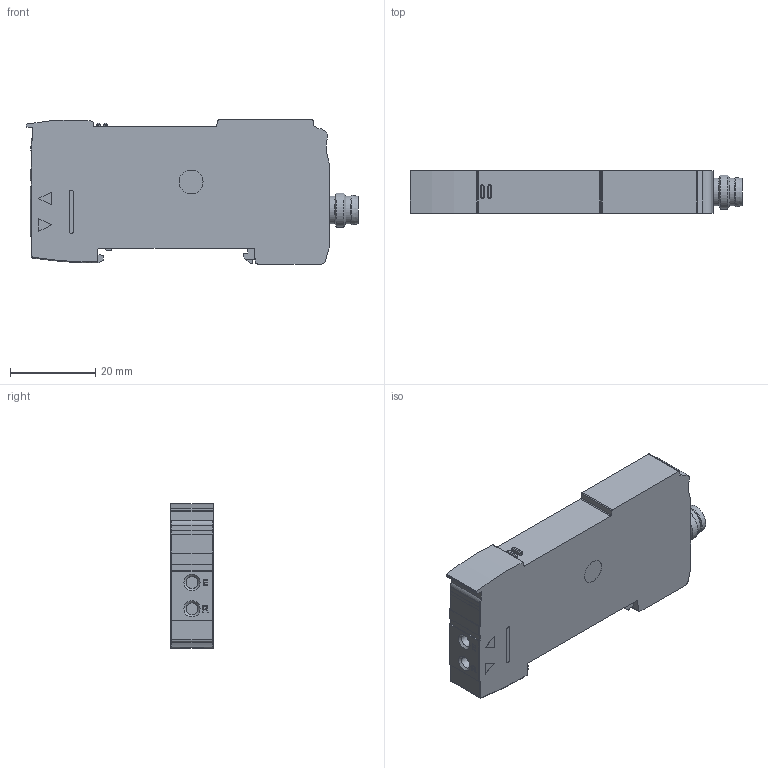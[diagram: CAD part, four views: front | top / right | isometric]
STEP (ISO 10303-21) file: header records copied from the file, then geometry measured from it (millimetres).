
FILE_DESCRIPTION( ( '' ), '1' );
FILE_NAME( 'Z:/bereich/BECH/Services/me_CAD/Solid Edge/Models/Dokumentationen/Opto/Lichtleiter/Yamatake/Verstärker/Vereinfachte Modelle/Neutralformate/FVDK 10P67Y0_S35A.stp', '2006-09-22T11:50:18', ( 'Erich Hohloch' ), ( 'Baumer Electric AG' ), 'XStep 1.0', 'Solid Edge', ' ' );
FILE_SCHEMA( ( 'automotive_design' ) );
Length unit declared in the file: millimetre
Products named in the file (1): 1
Bounding box: 78 x 10 x 33.85 mm (x, y, z)
Volume: 21724.9 mm3; surface area: 7056.3 mm2
Topology: 1 solids, 2 shells, 209 faces, 528 edges, 341 vertices
Faces by surface type: plane 121, cylinder 60, cone 14, torus 6, extrusion 4, sphere 4
Full cylindrical faces by diameter (mm): 1 x4, 2 x1, 2.8 x2, 5.6 x2, 5.77 x1, 6.5 x2, 6.9 x1, 8 x1
Entity records: 7887 total; most frequent: CARTESIAN_POINT 1295, DIRECTION 1007, ORIENTED_EDGE 988, EDGE_CURVE 494, AXIS2_PLACEMENT_3D 347, VERTEX_POINT 331, VECTOR 313, LINE 309
